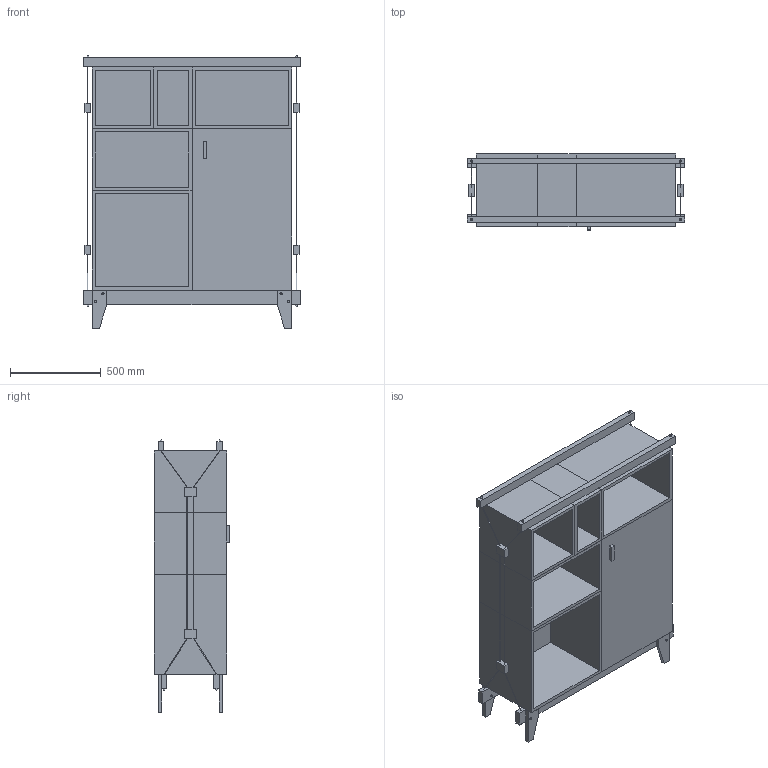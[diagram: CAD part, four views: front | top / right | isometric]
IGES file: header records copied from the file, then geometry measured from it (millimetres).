
Start section: Data from Parasolid IGES Translator 17.0.49, Copyright(c) 2006 Siemens P LM Software. All Rights Reserved.
Global section: file name: Saam C.igs; native system: By Siemens PLM Incorporated; preprocessor: XPlus GENERIC/IGES 17.0.49; author: Noname; organization: Noname; date: 20170605.063227; units: metre
Bounding box: 1200 x 418 x 1502 mm (x, y, z)
Volume: 275858198.1 mm3; surface area: 11142811.8 mm2
Topology: 34 solids, 34 shells, 218 faces, 428 edges, 284 vertices
Faces by surface type: plane 182, cylinder 28, sphere 8
Full cylindrical faces by diameter (mm): 3 x12, 12 x16
